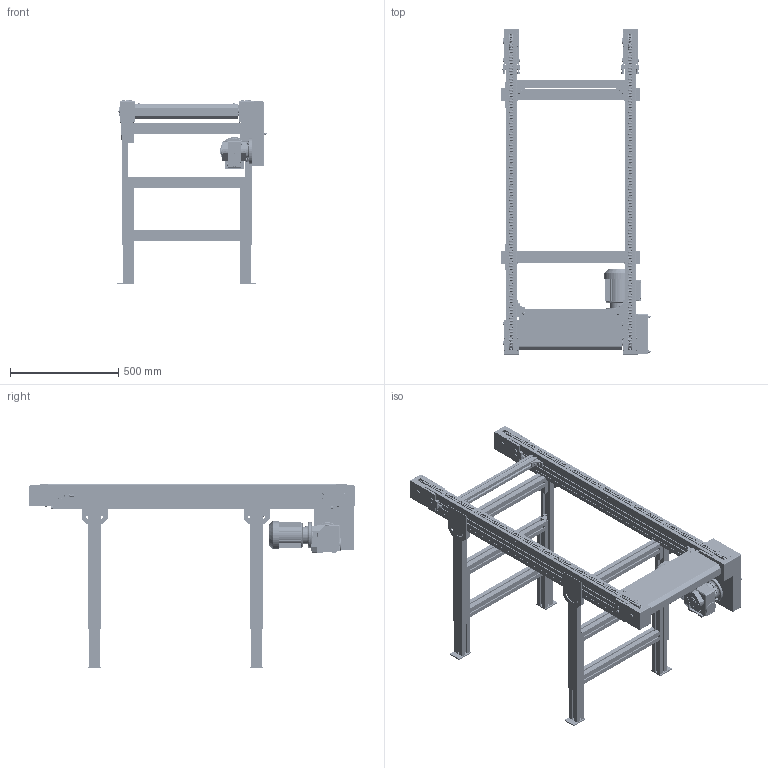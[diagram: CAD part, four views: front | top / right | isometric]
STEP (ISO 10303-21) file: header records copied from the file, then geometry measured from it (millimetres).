
FILE_DESCRIPTION(/* description */ (''),/* implementation_level */ '2;1');
FILE_NAME(/* name */ 'C:\Marketing\01_Versamove-SPU_STEP-Dateien-Homepage\Versamove plus\STEP-Dateien\Kettenförderer_KTF-P-2010_B600_L1500.stp',/* time_stamp */ '2016-12-22T10:00:36+01:00',/* author */ ('herbert.engels'),/* organization */ (''),/* preprocessor_version */ 'ST-DEVELOPER v15.6',/* originating_system */ 'Autodesk Inventor 2015',/* authorisation */ '');
FILE_SCHEMA (('CONFIG_CONTROL_DESIGN'));
Products named in the file (1): Kettenförderer_KTF-P-2010_B600_L1500
Bounding box: 690.6 x 1503 x 852.54 mm (x, y, z)
Volume: 34038757.6 mm3; surface area: 5993114.3 mm2
Topology: 13 solids, 13 shells, 7103 faces, 18916 edges, 12292 vertices
Faces by surface type: plane 3939, cylinder 2750, torus 214, cone 169, bspline 23, sphere 8
Full cylindrical faces by diameter (mm): 2 x2, 4.45 x438, 5.459 x4, 6 x21, 6.6 x4, 7 x8, 8 x39, 8.51 x224, 8.8 x19, 9.5 x2, 11.8 x440, 12 x6, 13 x12, 14 x3, 16.2 x4, 19 x3, 20 x6, 24 x1, 25 x1, 25.5 x4, 35 x12, 37 x1, 38 x1, 40 x4, 43 x1, 52 x1, 56 x2, 62 x2, 73 x8, 80 x3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
Entity records: 222511 total; most frequent: CARTESIAN_POINT 41543, DIRECTION 36775, ORIENTED_EDGE 34442, EDGE_CURVE 17000, AXIS2_PLACEMENT_3D 13796, VERTEX_POINT 11757, EDGE_LOOP 9968, LINE 9183
